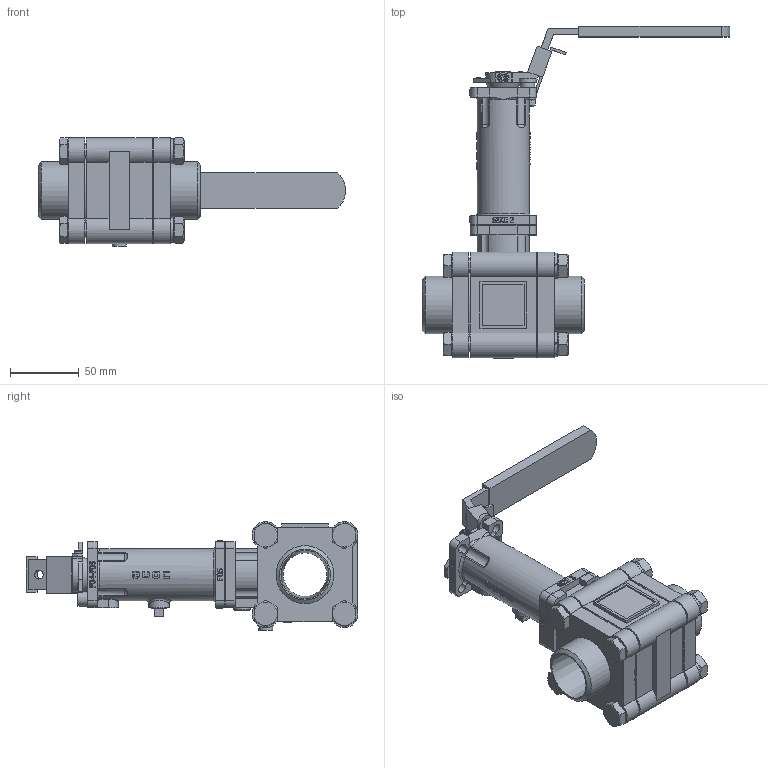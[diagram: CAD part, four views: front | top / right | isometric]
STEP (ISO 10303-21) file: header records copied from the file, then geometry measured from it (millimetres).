
FILE_DESCRIPTION(/* description */ ('Eriks item no: 14229944'),/* implementation_level */ '2;1');
FILE_NAME(/* name */ 'L:\DATA\ENG\Inventor\Econ 3D modellen\kogelkranen\7642 +7412\7642-DN32-FB + 7412-size2.stp',/* time_stamp */ '2024-01-22T16:05:45+01:00',/* author */ ('roger.thijssen'),/* organization */ (''),/* preprocessor_version */ 'ST-DEVELOPER v18',/* originating_system */ 'Autodesk Inventor 2020',/* authorisation */ '');
FILE_SCHEMA (('CONFIG_CONTROL_DESIGN'));
Length unit declared in the file: millimetre
Products named in the file (1): Ball valve + stem ext., 7642-DN32-FB + 7412-size2
Bounding box: 224 x 241.96 x 79.17 mm (x, y, z)
Volume: 552054.3 mm3; surface area: 125568.6 mm2
Topology: 1 solids, 1 shells, 1174 faces, 3140 edges, 2047 vertices
Faces by surface type: plane 685, cylinder 195, bspline 192, cone 79, torus 23
Full cylindrical faces by diameter (mm): 5 x1, 6 x1, 6.5 x2, 7 x4, 8.6 x1, 10 x5, 10.5 x1, 11 x12, 12 x1, 14.288 x3, 15 x2, 15.6 x4, 20 x1, 28 x2, 30 x1, 31.8 x2, 32 x1, 35 x1, 38 x1, 42.2 x2, 69 x2
Entity records: 41299 total; most frequent: CARTESIAN_POINT 11889, ORIENTED_EDGE 6278, DIRECTION 5218, EDGE_CURVE 3139, VERTEX_POINT 2047, LINE 1830, VECTOR 1830, AXIS2_PLACEMENT_3D 1694
